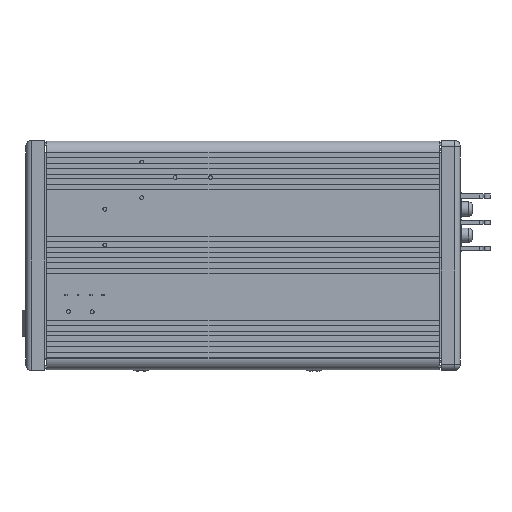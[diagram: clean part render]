
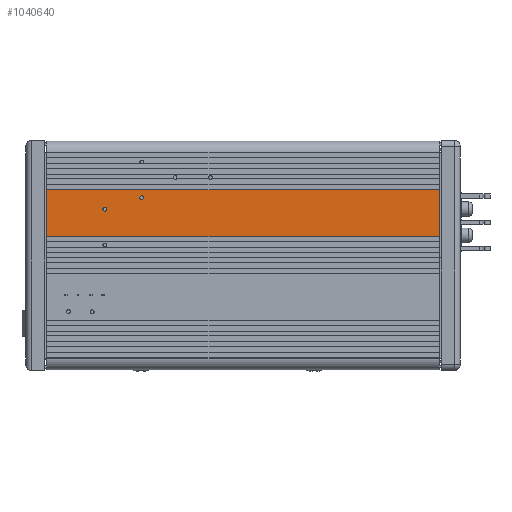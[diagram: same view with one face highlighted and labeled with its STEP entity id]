
A CAD part, front view. The second image highlights one B-rep face of the part: STEP entity #1040640.
In plain terms, the highlighted planar face has unit normal (0, -1, 0) as drawn and (1, 0, 0) by its records, which use the part's own axes.
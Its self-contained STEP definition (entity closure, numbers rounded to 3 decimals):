
#1029630=CARTESIAN_POINT('',(38.193,69.48,165.));
#1029640=VERTEX_POINT('',#1029630);
#1029670=CARTESIAN_POINT('',(38.193,49.73,165.));
#1029680=DIRECTION('',(0.,1.,0.));
#1029690=VECTOR('',#1029680,1.);
#1029700=LINE('',#1029670,#1029690);
#1029710=CARTESIAN_POINT('',(38.193,49.73,165.));
#1029720=VERTEX_POINT('',#1029710);
#1029730=EDGE_CURVE('',#1029720,#1029640,#1029700,.T.);
#1040220=CARTESIAN_POINT('',(38.193,49.73,165.));
#1040230=DIRECTION('',(0.,0.,-1.));
#1040240=VECTOR('',#1040230,1.);
#1040250=LINE('',#1040220,#1040240);
#1040260=CARTESIAN_POINT('',(38.193,49.73,0.));
#1040270=VERTEX_POINT('',#1040260);
#1040280=EDGE_CURVE('',#1029720,#1040270,#1040250,.T.);
#1040410=CARTESIAN_POINT('',(38.193,67.48,-0.));
#1040420=DIRECTION('',(1.,-0.,-0.));
#1040430=DIRECTION('',(-0.,0.,-1.));
#1040440=AXIS2_PLACEMENT_3D('',#1040410,#1040420,#1040430);
#1040450=PLANE('',#1040440);
#1040460=CARTESIAN_POINT('',(38.193,69.48,165.));
#1040470=DIRECTION('',(0.,0.,-1.));
#1040480=VECTOR('',#1040470,1.);
#1040490=LINE('',#1040460,#1040480);
#1040500=CARTESIAN_POINT('',(38.193,69.48,0.));
#1040510=VERTEX_POINT('',#1040500);
#1040520=EDGE_CURVE('',#1029640,#1040510,#1040490,.T.);
#1040530=ORIENTED_EDGE('',*,*,#1040520,.F.);
#1040540=CARTESIAN_POINT('',(38.193,69.48,0.));
#1040550=DIRECTION('',(0.,-1.,0.));
#1040560=VECTOR('',#1040550,1.);
#1040570=LINE('',#1040540,#1040560);
#1040580=EDGE_CURVE('',#1040510,#1040270,#1040570,.T.);
#1040590=ORIENTED_EDGE('',*,*,#1040580,.F.);
#1040600=ORIENTED_EDGE('',*,*,#1040280,.T.);
#1040610=ORIENTED_EDGE('',*,*,#1029730,.F.);
#1040620=EDGE_LOOP('',(#1040610,#1040600,#1040590,#1040530));
#1040630=FACE_OUTER_BOUND('',#1040620,.T.);
#1040640=ADVANCED_FACE('',(#1040630),#1040450,.T.);
